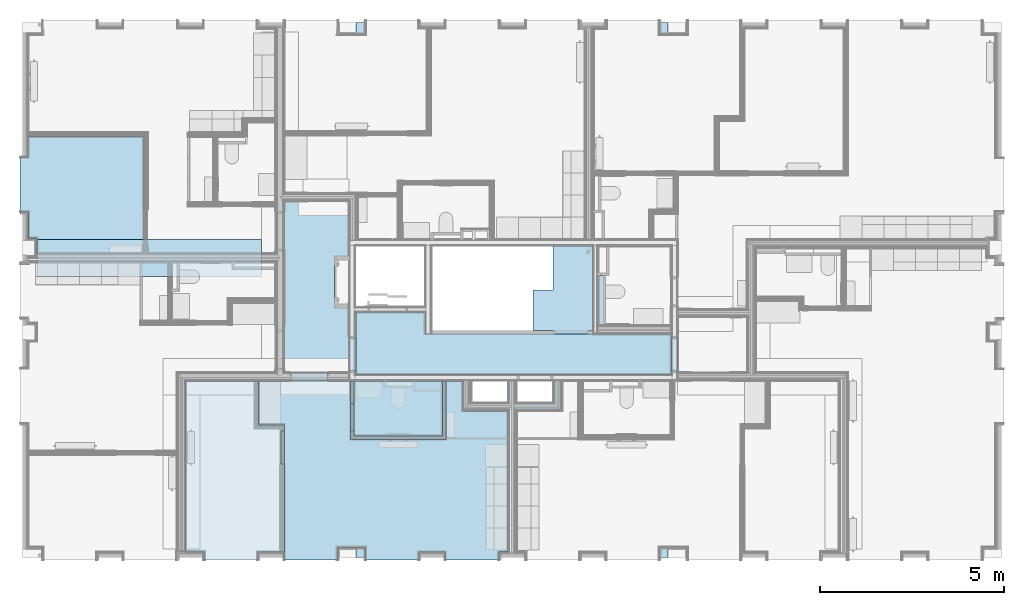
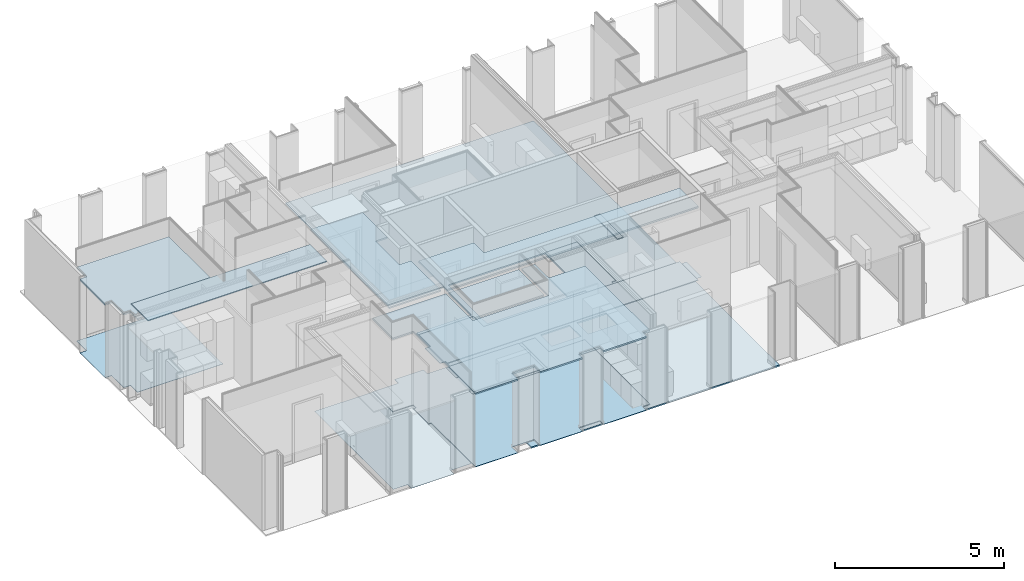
# One storey, part 42 of 64: 20 slabs.
"""IFC2X3 building model written with IfcOpenShell, lengths in metres."""

from ifc_helpers import new_model, entity, si_unit, converted_unit, derived_unit, money_unit, direction, frame, origin_with_axes, place, context, subcontext, project, spatial, faceted_brep, material, type_object, element, save


model = new_model("IFC2X3")

# Units and contexts
model_context = context("Model", 3, precision=1e-05, world=origin_with_axes(), true_north=direction((0.0, 1.0)))
body_context = subcontext(model_context, "Body", "Model", "MODEL_VIEW", scale=1.0)
ifc_project = project(units=[si_unit("LENGTHUNIT", "METRE"), si_unit("AREAUNIT", "SQUARE_METRE"), si_unit("VOLUMEUNIT", "CUBIC_METRE"), si_unit("ABSORBEDDOSEUNIT", "GRAY"), si_unit("AMOUNTOFSUBSTANCEUNIT", "MOLE"), si_unit("DOSEEQUIVALENTUNIT", "SIEVERT"), si_unit("ELECTRICCAPACITANCEUNIT", "FARAD"), si_unit("ELECTRICCHARGEUNIT", "COULOMB"), si_unit("ELECTRICCONDUCTANCEUNIT", "SIEMENS"), si_unit("ELECTRICCURRENTUNIT", "AMPERE"), si_unit("ELECTRICRESISTANCEUNIT", "OHM"), si_unit("ELECTRICVOLTAGEUNIT", "VOLT"), si_unit("ENERGYUNIT", "JOULE"), si_unit("FORCEUNIT", "NEWTON"), si_unit("FREQUENCYUNIT", "HERTZ"), si_unit("ILLUMINANCEUNIT", "LUX"), si_unit("INDUCTANCEUNIT", "HENRY"), si_unit("LUMINOUSFLUXUNIT", "LUMEN"), si_unit("LUMINOUSINTENSITYUNIT", "CANDELA"), si_unit("MAGNETICFLUXDENSITYUNIT", "TESLA"), si_unit("MAGNETICFLUXUNIT", "WEBER"), si_unit("MASSUNIT", "GRAM"), converted_unit("PLANEANGLEUNIT", "degree", entity("IfcReal", 0.0174532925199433), si_unit("PLANEANGLEUNIT", "RADIAN"), dimensions=[0, 0, 0, 0, 0, 0, 0]), si_unit("POWERUNIT", "WATT"), si_unit("PRESSUREUNIT", "PASCAL"), si_unit("RADIOACTIVITYUNIT", "BECQUEREL"), si_unit("SOLIDANGLEUNIT", "STERADIAN"), si_unit("THERMODYNAMICTEMPERATUREUNIT", "KELVIN"), si_unit("TIMEUNIT", "SECOND"), derived_unit("ACCELERATIONUNIT", [(si_unit("LENGTHUNIT", "METRE"), 1), (si_unit("TIMEUNIT", "SECOND"), -2)]), derived_unit("ANGULARVELOCITYUNIT", [(converted_unit("PLANEANGLEUNIT", "degree", entity("IfcReal", 0.0174532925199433), si_unit("PLANEANGLEUNIT", "RADIAN"), dimensions=[0, 0, 0, 0, 0, 0, 0]), 1), (si_unit("TIMEUNIT", "SECOND"), -1)]), derived_unit("CURVATUREUNIT", [(converted_unit("PLANEANGLEUNIT", "degree", entity("IfcReal", 0.0174532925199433), si_unit("PLANEANGLEUNIT", "RADIAN"), dimensions=[0, 0, 0, 0, 0, 0, 0]), 1), (si_unit("LENGTHUNIT", "METRE"), -1)]), derived_unit("DYNAMICVISCOSITYUNIT", [(si_unit("PRESSUREUNIT", "PASCAL"), 1), (si_unit("TIMEUNIT", "SECOND"), 1)]), derived_unit("HEATFLUXDENSITYUNIT", [(si_unit("POWERUNIT", "WATT"), 1), (si_unit("LENGTHUNIT", "METRE"), -2)]), derived_unit("HEATINGVALUEUNIT", [(si_unit("ENERGYUNIT", "JOULE"), 1), (si_unit("MASSUNIT", "GRAM"), -1)]), derived_unit("INTEGERCOUNTRATEUNIT", [(si_unit("TIMEUNIT", "SECOND"), -1)]), derived_unit("IONCONCENTRATIONUNIT", [(si_unit("MASSUNIT", "GRAM"), 1), (si_unit("VOLUMEUNIT", "CUBIC_METRE"), -1)]), derived_unit("ISOTHERMALMOISTURECAPACITYUNIT", [(si_unit("VOLUMEUNIT", "CUBIC_METRE"), 1), (si_unit("MASSUNIT", "GRAM"), -1)]), derived_unit("KINEMATICVISCOSITYUNIT", [(si_unit("AREAUNIT", "SQUARE_METRE"), 1), (si_unit("TIMEUNIT", "SECOND"), -1)]), derived_unit("LINEARFORCEUNIT", [(si_unit("FORCEUNIT", "NEWTON"), 1), (si_unit("LENGTHUNIT", "METRE"), -1)]), derived_unit("LINEARMOMENTUNIT", [(si_unit("FORCEUNIT", "NEWTON"), 1), (si_unit("LENGTHUNIT", "METRE"), -1)]), derived_unit("LINEARSTIFFNESSUNIT", [(si_unit("FORCEUNIT", "NEWTON"), 1), (si_unit("LENGTHUNIT", "METRE"), -1)]), derived_unit("LINEARVELOCITYUNIT", [(si_unit("LENGTHUNIT", "METRE"), 1), (si_unit("TIMEUNIT", "SECOND"), -1)]), derived_unit("LUMINOUSINTENSITYDISTRIBUTIONUNIT", [(si_unit("LUMINOUSINTENSITYUNIT", "CANDELA"), 1), (si_unit("LUMINOUSFLUXUNIT", "LUMEN"), -1)]), derived_unit("MASSDENSITYUNIT", [(si_unit("MASSUNIT", "GRAM"), 1), (si_unit("VOLUMEUNIT", "CUBIC_METRE"), -1)]), derived_unit("MASSFLOWRATEUNIT", [(si_unit("MASSUNIT", "GRAM"), 1), (si_unit("TIMEUNIT", "SECOND"), -1)]), derived_unit("MASSPERLENGTHUNIT", [(si_unit("MASSUNIT", "GRAM"), 1), (si_unit("LENGTHUNIT", "METRE"), -1)]), derived_unit("MODULUSOFELASTICITYUNIT", [(si_unit("FORCEUNIT", "NEWTON"), 1), (si_unit("AREAUNIT", "SQUARE_METRE"), -1)]), derived_unit("MODULUSOFLINEARSUBGRADEREACTIONUNIT", [(si_unit("FORCEUNIT", "NEWTON"), 1), (si_unit("LENGTHUNIT", "METRE"), -2)]), derived_unit("MODULUSOFROTATIONALSUBGRADEREACTIONUNIT", [(si_unit("FORCEUNIT", "NEWTON"), 1), (si_unit("LENGTHUNIT", "METRE"), 1)]), derived_unit("MODULUSOFSUBGRADEREACTIONUNIT", [(si_unit("FORCEUNIT", "NEWTON"), 1), (si_unit("VOLUMEUNIT", "CUBIC_METRE"), -1)]), derived_unit("MOISTUREDIFFUSIVITYUNIT", [(si_unit("VOLUMEUNIT", "CUBIC_METRE"), 1), (si_unit("TIMEUNIT", "SECOND"), -1)]), derived_unit("MOLECULARWEIGHTUNIT", [(si_unit("MASSUNIT", "GRAM"), 1), (si_unit("AMOUNTOFSUBSTANCEUNIT", "MOLE"), -1)]), derived_unit("PLANARFORCEUNIT", [(si_unit("FORCEUNIT", "NEWTON"), 1), (si_unit("LENGTHUNIT", "METRE"), -2)]), derived_unit("ROTATIONALFREQUENCYUNIT", [(si_unit("TIMEUNIT", "SECOND"), -1)]), derived_unit("ROTATIONALMASSUNIT", [(si_unit("MASSUNIT", "GRAM"), 1), (si_unit("LENGTHUNIT", "METRE"), 2)]), derived_unit("ROTATIONALSTIFFNESSUNIT", [(si_unit("FORCEUNIT", "NEWTON"), 1), (si_unit("LENGTHUNIT", "METRE"), 1), (converted_unit("PLANEANGLEUNIT", "degree", entity("IfcReal", 0.0174532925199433), si_unit("PLANEANGLEUNIT", "RADIAN"), dimensions=[0, 0, 0, 0, 0, 0, 0]), -1)]), derived_unit("SECTIONAREAINTEGRALUNIT", [(si_unit("LENGTHUNIT", "METRE"), 5)]), derived_unit("SECTIONMODULUSUNIT", [(si_unit("LENGTHUNIT", "METRE"), 3)]), derived_unit("SHEARMODULUSUNIT", [(si_unit("FORCEUNIT", "NEWTON"), 1), (si_unit("AREAUNIT", "SQUARE_METRE"), -1)]), derived_unit("SOUNDPOWERUNIT", [(si_unit("ENERGYUNIT", "JOULE"), 1), (si_unit("TIMEUNIT", "SECOND"), -1)]), derived_unit("SPECIFICHEATCAPACITYUNIT", [(si_unit("FORCEUNIT", "NEWTON"), 1), (si_unit("MASSUNIT", "GRAM"), -1), (si_unit("THERMODYNAMICTEMPERATUREUNIT", "KELVIN"), -1)]), derived_unit("TEMPERATUREGRADIENTUNIT", [(si_unit("THERMODYNAMICTEMPERATUREUNIT", "KELVIN"), 1), (si_unit("LENGTHUNIT", "METRE"), -1)]), derived_unit("THERMALADMITTANCEUNIT", [(si_unit("POWERUNIT", "WATT"), 1), (si_unit("AREAUNIT", "SQUARE_METRE"), -1), (si_unit("THERMODYNAMICTEMPERATUREUNIT", "KELVIN"), -1)]), derived_unit("THERMALCONDUCTANCEUNIT", [(si_unit("POWERUNIT", "WATT"), 1), (si_unit("LENGTHUNIT", "METRE"), -1), (si_unit("THERMODYNAMICTEMPERATUREUNIT", "KELVIN"), -1)]), derived_unit("THERMALEXPANSIONCOEFFICIENTUNIT", [(si_unit("THERMODYNAMICTEMPERATUREUNIT", "KELVIN"), -1)]), derived_unit("THERMALRESISTANCEUNIT", [(si_unit("AREAUNIT", "SQUARE_METRE"), 1), (si_unit("POWERUNIT", "WATT"), -1)]), derived_unit("THERMALTRANSMITTANCEUNIT", [(si_unit("POWERUNIT", "WATT"), 1), (si_unit("AREAUNIT", "SQUARE_METRE"), -1), (si_unit("THERMODYNAMICTEMPERATUREUNIT", "KELVIN"), -1)]), derived_unit("TORQUEUNIT", [(si_unit("FORCEUNIT", "NEWTON"), 1), (si_unit("LENGTHUNIT", "METRE"), 1)]), derived_unit("VAPORPERMEABILITYUNIT", [(si_unit("MASSUNIT", "GRAM"), 1), (si_unit("TIMEUNIT", "SECOND"), -1)]), derived_unit("VOLUMETRICFLOWRATEUNIT", [(si_unit("VOLUMEUNIT", "CUBIC_METRE"), 1), (si_unit("TIMEUNIT", "SECOND"), -1)]), derived_unit("WARPINGCONSTANTUNIT", [(si_unit("LENGTHUNIT", "METRE"), 6)]), derived_unit("WARPINGMOMENTUNIT", [(si_unit("FORCEUNIT", "NEWTON"), 1), (si_unit("LENGTHUNIT", "METRE"), 2)]), money_unit("GBP")], contexts=[model_context])

# Site, building, storey
site_placement = place(None, origin_with_axes())
site = spatial("IfcSite", under=ifc_project, at=site_placement, Name="Site", CompositionType="ELEMENT")
building_placement = place(site_placement, origin_with_axes())
building = spatial("IfcBuilding", under=site, at=building_placement, Name="Building01", CompositionType="ELEMENT")
storey_placement = place(building_placement, frame((0.0, 0.0, 8.64), z_axis=(0.0, 0.0, 1.0), x_axis=(1.0, 0.0, 0.0)))
storey = spatial("IfcBuildingStorey", under=building, at=storey_placement, Name="2F", CompositionType="ELEMENT", Elevation=8.64)

# Slabs
ifc_material_1 = material(Name="A_BSUK_CeilingSoffitFinishes_Suspended")
slab_type_1 = type_object("IfcSlabType", Name="A-FloorsSlabs A_BSUK_Slabs", PredefinedType="FLOOR")
placement = place(storey_placement, frame((0.0, 0.0, -8.64), z_axis=(0.0, 0.0, 1.0), x_axis=(1.0, 0.0, 0.0)))
element("IfcSlab", 1, at=placement, inside=storey, type_object=slab_type_1, material=ifc_material_1, Name="A-FloorsSlabs A_BSUK_Slabs", ObjectType="CompoundSlabLeaf", context=body_context, shape_type="Brep", body=[
    faceted_brep([(9.25, 5.15, 11.255), (9.25, 5.15, 11.27), (9.25, 6.85, 11.27), (9.25, 6.85, 11.255), (17.83, 5.15, 11.255), (17.83, 5.15, 11.27), (17.83, 6.25, 11.255), (17.83, 6.25, 11.27), (15.679803, 6.25, 11.255), (15.679803, 6.25, 11.27), (11.13, 6.25, 11.255), (11.13, 6.25, 11.27), (11.13, 6.85, 11.255), (11.13, 6.85, 11.27)], [[[0, 1, 2, 3]], [[4, 5, 1, 0]], [[6, 7, 5, 4]], [[8, 9, 7, 6]], [[10, 11, 9, 8]], [[12, 13, 11, 10]], [[3, 2, 13, 12]], [[1, 5, 7, 9, 11, 13, 2]], [[3, 12, 10, 8, 6, 4, 0]]]),
])
ifc_material_2 = material(Name="A_BSUK_InternalFinishes_FloorScreed")
element("IfcSlab", 2, at=placement, inside=storey, type_object=slab_type_1, material=ifc_material_2, Name="A-FloorsSlabs A_BSUK_Slabs", ObjectType="CompoundSlabLeaf", context=body_context, shape_type="Brep", body=[
    faceted_brep([(11.13, 8.65, 8.64), (11.13, 6.98, 8.64), (9.25, 6.98, 8.64), (9.25, 0.17, 8.64), (17.73, 0.17, 8.64), (17.73, 14.73, 8.64), (9.25, 14.73, 8.64), (9.25, 8.65, 8.64), (13.375, 5.05385, 8.64), (13.375, 4.389428, 8.64), (12.375, 4.389428, 8.64), (12.375, 5.05385, 8.64), (14.625, 5.05385, 8.64), (14.625, 4.389428, 8.64), (13.625, 4.389428, 8.64), (13.625, 5.05385, 8.64), (14.059316, 6.35, 8.64), (11.3, 6.35, 8.64), (11.3, 8.65, 8.64), (14.609584, 8.65, 8.64), (14.609584, 7.454282, 8.64), (14.059316, 7.454282, 8.64), (11.13, 8.65, 8.59), (9.25, 8.65, 8.59), (9.25, 14.73, 8.59), (17.73, 14.73, 8.59), (17.73, 0.17, 8.59), (9.25, 0.17, 8.59), (9.25, 6.98, 8.59), (11.13, 6.98, 8.59), (13.375, 5.05385, 8.59), (12.375, 5.05385, 8.59), (12.375, 4.389428, 8.59), (13.375, 4.389428, 8.59), (14.059316, 6.35, 8.59), (14.059316, 7.454282, 8.59), (14.609584, 7.454282, 8.59), (14.609584, 8.65, 8.59), (11.3, 8.65, 8.59), (11.3, 6.35, 8.59), (14.625, 5.05385, 8.59), (13.625, 5.05385, 8.59), (13.625, 4.389428, 8.59), (14.625, 4.389428, 8.59)], [[[0, 1, 2, 3, 4, 5, 6, 7], [8, 9, 10, 11], [12, 13, 14, 15], [16, 17, 18, 19, 20, 21]], [[22, 23, 24, 25, 26, 27, 28, 29], [30, 31, 32, 33], [34, 35, 36, 37, 38, 39], [40, 41, 42, 43]], [[23, 7, 6, 24]], [[2, 28, 27, 3]], [[35, 21, 20, 36]], [[24, 6, 5, 25]], [[26, 4, 3, 27]], [[25, 5, 4, 26]], [[15, 41, 40, 12]], [[12, 40, 43, 13]], [[13, 43, 42, 14]], [[14, 42, 41, 15]], [[11, 31, 30, 8]], [[8, 30, 33, 9]], [[9, 33, 32, 10]], [[10, 32, 31, 11]], [[18, 38, 37, 19]], [[19, 37, 36, 20]], [[17, 39, 38, 18]], [[16, 34, 39, 17]], [[21, 35, 34, 16]], [[0, 22, 29, 1]], [[7, 23, 22, 0]], [[1, 29, 28, 2]]]),
])
ifc_material_3 = material(Name="A_BSUK_Ceramic_WallTiles")
element("IfcSlab", 3, at=placement, inside=storey, type_object=slab_type_1, material=ifc_material_3, Name="A-FloorsSlabs A_BSUK_Slabs", ObjectType="CompoundSlabLeaf", context=body_context, shape_type="Brep", body=[
    faceted_brep([(16.03, 6.475, 10.015), (16.03, 6.475, 10.04), (15.83, 6.475, 10.04), (15.83, 6.475, 10.015), (16.03, 7.849998, 10.015), (16.03, 7.849998, 10.04), (15.830003, 7.85, 10.015), (15.830003, 7.85, 10.04)], [[[0, 1, 2, 3]], [[4, 5, 1, 0]], [[6, 7, 5, 4]], [[3, 2, 7, 6]], [[1, 5, 7, 2]], [[3, 6, 4, 0]]]),
])
ifc_material_4 = material(Name="A_BSUK_ExpandedPolystyreneBoards")
element("IfcSlab", 4, at=placement, inside=storey, type_object=slab_type_1, material=ifc_material_4, Name="A-FloorsSlabs A_BSUK_Slabs", ObjectType="CompoundSlabLeaf", context=body_context, shape_type="Brep", body=[
    faceted_brep([(9.25, 6.15, 8.64), (9.25, 6.15, 8.643), (9.25, 6.85, 8.643), (9.25, 6.85, 8.64), (9.06, 6.15, 8.64), (9.06, 6.15, 8.643), (9.06, 5.25, 8.64), (9.06, 5.25, 8.643), (9.25, 5.25, 8.64), (9.25, 5.25, 8.643), (9.25, 5.15, 8.64), (9.25, 5.15, 8.643), (17.83, 5.15, 8.64), (17.83, 5.15, 8.643), (17.83, 5.25, 8.64), (17.83, 5.25, 8.643), (18.0, 5.25, 8.64), (18.0, 5.25, 8.643), (18.0, 6.15, 8.64), (18.0, 6.15, 8.643), (17.83, 6.15, 8.64), (17.83, 6.15, 8.643), (17.83, 6.25, 8.64), (17.83, 6.25, 8.643), (15.558, 6.25, 8.64), (15.558, 6.25, 8.643), (15.558, 6.35, 8.64), (15.558, 6.35, 8.643), (15.6, 6.35, 8.64), (15.6, 6.35, 8.643), (15.7, 6.35, 8.64), (15.7, 6.35, 8.643), (15.7, 8.65, 8.64), (15.7, 8.65, 8.643), (14.609584, 8.65, 8.64), (14.609584, 8.65, 8.643), (14.609584, 7.454282, 8.64), (14.609584, 7.454282, 8.643), (14.059316, 7.454282, 8.64), (14.059316, 7.454282, 8.643), (14.059316, 6.35, 8.64), (14.059316, 6.35, 8.643), (14.658, 6.35, 8.64), (14.658, 6.35, 8.643), (14.658, 6.25, 8.64), (14.658, 6.25, 8.643), (11.13, 6.25, 8.64), (11.13, 6.25, 8.643), (11.13, 6.85, 8.64), (11.13, 6.85, 8.643)], [[[0, 1, 2, 3]], [[4, 5, 1, 0]], [[6, 7, 5, 4]], [[8, 9, 7, 6]], [[10, 11, 9, 8]], [[12, 13, 11, 10]], [[14, 15, 13, 12]], [[16, 17, 15, 14]], [[18, 19, 17, 16]], [[20, 21, 19, 18]], [[22, 23, 21, 20]], [[24, 25, 23, 22]], [[26, 27, 25, 24]], [[28, 29, 27, 26]], [[30, 31, 29, 28]], [[32, 33, 31, 30]], [[34, 35, 33, 32]], [[36, 37, 35, 34]], [[38, 39, 37, 36]], [[40, 41, 39, 38]], [[42, 43, 41, 40]], [[44, 45, 43, 42]], [[46, 47, 45, 44]], [[48, 49, 47, 46]], [[3, 2, 49, 48]], [[1, 5, 7, 9, 11, 13, 15, 17, 19, 21, 23, 25, 27, 29, 31, 33, 35, 37, 39, 41, 43, 45, 47, 49, 2]], [[3, 48, 46, 44, 42, 40, 38, 36, 34, 32, 30, 28, 26, 24, 22, 20, 18, 16, 14, 12, 10, 8, 6, 4, 0]]]),
])
element("IfcSlab", 5, at=placement, inside=storey, type_object=slab_type_1, material=ifc_material_4, Name="A-FloorsSlabs A_BSUK_Slabs", ObjectType="CompoundSlabLeaf", context=body_context, shape_type="Brep", body=[
    faceted_brep([(12.15, 4.98, 8.64), (12.15, 4.98, 8.643), (12.15, 4.164428, 8.643), (12.15, 4.164428, 8.64), (9.0, 4.98, 8.64), (9.0, 4.98, 8.643), (8.4725, 4.98, 8.64), (8.4725, 4.98, 8.643), (8.4725, 5.205, 8.64), (8.4725, 5.205, 8.643), (7.4725, 5.205, 8.64), (7.4725, 5.205, 8.643), (7.4725, 4.98, 8.64), (7.4725, 4.98, 8.643), (4.61, 4.98, 8.64), (4.61, 4.98, 8.643), (4.61, 0.318, 8.64), (4.61, 0.318, 8.643), (5.105, 0.318, 8.64), (5.105, 0.318, 8.643), (5.105, 0.1, 8.64), (5.105, 0.1, 8.643), (6.575, 0.1, 8.64), (6.575, 0.1, 8.643), (6.575, 0.318, 8.64), (6.575, 0.318, 8.643), (7.295, 0.318, 8.64), (7.295, 0.318, 8.643), (7.295, 0.1, 8.64), (7.295, 0.1, 8.643), (8.742, 0.1, 8.64), (8.742, 0.1, 8.643), (8.742, 0.448, 8.64), (8.742, 0.448, 8.643), (9.508, 0.448, 8.64), (9.508, 0.448, 8.643), (9.508, 0.1, 8.64), (9.508, 0.1, 8.643), (10.955, 0.1, 8.64), (10.955, 0.1, 8.643), (10.955, 0.318, 8.64), (10.955, 0.318, 8.643), (11.675, 0.318, 8.64), (11.675, 0.318, 8.643), (11.675, 0.1, 8.64), (11.675, 0.1, 8.643), (13.145, 0.1, 8.64), (13.145, 0.1, 8.643), (13.145, 0.318, 8.64), (13.145, 0.318, 8.643), (13.3875, 0.318, 8.64), (13.3875, 0.318, 8.643), (13.3875, 4.164428, 8.64), (13.3875, 4.164428, 8.643)], [[[0, 1, 2, 3]], [[4, 5, 1, 0]], [[6, 7, 5, 4]], [[8, 9, 7, 6]], [[10, 11, 9, 8]], [[12, 13, 11, 10]], [[14, 15, 13, 12]], [[16, 17, 15, 14]], [[18, 19, 17, 16]], [[20, 21, 19, 18]], [[22, 23, 21, 20]], [[24, 25, 23, 22]], [[26, 27, 25, 24]], [[28, 29, 27, 26]], [[30, 31, 29, 28]], [[32, 33, 31, 30]], [[34, 35, 33, 32]], [[36, 37, 35, 34]], [[38, 39, 37, 36]], [[40, 41, 39, 38]], [[42, 43, 41, 40]], [[44, 45, 43, 42]], [[46, 47, 45, 44]], [[48, 49, 47, 46]], [[50, 51, 49, 48]], [[52, 53, 51, 50]], [[3, 2, 53, 52]], [[1, 5, 7, 9, 11, 13, 15, 17, 19, 21, 23, 25, 27, 29, 31, 33, 35, 37, 39, 41, 43, 45, 47, 49, 51, 53, 2]], [[3, 52, 50, 48, 46, 44, 42, 40, 38, 36, 34, 32, 30, 28, 26, 24, 22, 20, 18, 16, 14, 12, 10, 8, 6, 4, 0]]]),
])
ifc_material_5 = material(Name="A_BSUK_Carpet-Pile")
element("IfcSlab", 6, at=placement, inside=storey, type_object=slab_type_1, material=ifc_material_5, Name="A-FloorsSlabs A_BSUK_Slabs", ObjectType="CompoundSlabLeaf", context=body_context, shape_type="Brep", body=[
    faceted_brep([(0.318, 11.63067, 8.643), (0.318, 11.63067, 8.655), (3.474669, 11.63067, 8.655), (3.474669, 11.63067, 8.643), (0.318, 11.055, 8.643), (0.318, 11.055, 8.655), (0.1, 11.055, 8.643), (0.1, 11.055, 8.655), (0.1, 9.56218, 8.643), (0.1, 9.56218, 8.655), (0.318, 9.56218, 8.643), (0.318, 9.56218, 8.655), (0.318, 8.848, 8.643), (0.318, 8.848, 8.655), (0.548, 8.848, 8.643), (0.548, 8.848, 8.655), (0.548, 8.43567, 8.643), (0.548, 8.43567, 8.655), (3.474669, 8.43567, 8.643), (3.474669, 8.43567, 8.655)], [[[0, 1, 2, 3]], [[4, 5, 1, 0]], [[6, 7, 5, 4]], [[8, 9, 7, 6]], [[10, 11, 9, 8]], [[12, 13, 11, 10]], [[14, 15, 13, 12]], [[16, 17, 15, 14]], [[18, 19, 17, 16]], [[3, 2, 19, 18]], [[1, 5, 7, 9, 11, 13, 15, 17, 19, 2]], [[3, 18, 16, 14, 12, 10, 8, 6, 4, 0]]]),
])
ifc_material_6 = material(Name="A_BSUK_Parquet_Floor")
element("IfcSlab", 7, at=placement, inside=storey, type_object=slab_type_1, material=ifc_material_6, Name="A-FloorsSlabs A_BSUK_Slabs", ObjectType="CompoundSlabLeaf", context=body_context, shape_type="Brep", body=[
    faceted_brep([(8.4725, 5.205, 8.643), (8.4725, 5.205, 8.655), (8.4725, 4.98, 8.655), (8.4725, 4.98, 8.643), (7.4725, 5.205, 8.643), (7.4725, 5.205, 8.655), (7.4725, 4.98, 8.643), (7.4725, 4.98, 8.655), (6.595, 4.98, 8.643), (6.595, 4.98, 8.655), (6.595, 3.78, 8.643), (6.595, 3.78, 8.655), (7.295, 3.78, 8.643), (7.295, 3.78, 8.655), (7.295, 3.616, 8.643), (7.295, 3.616, 8.655), (7.2, 3.616, 8.643), (7.2, 3.616, 8.655), (7.2, 2.716, 8.643), (7.2, 2.716, 8.655), (7.295, 2.716, 8.643), (7.295, 2.716, 8.655), (7.295, 0.1, 8.643), (7.295, 0.1, 8.655), (8.742, 0.1, 8.643), (8.742, 0.1, 8.655), (8.742, 0.448, 8.643), (8.742, 0.448, 8.655), (9.508, 0.448, 8.643), (9.508, 0.448, 8.655), (9.508, 0.1, 8.643), (9.508, 0.1, 8.655), (10.955, 0.1, 8.643), (10.955, 0.1, 8.655), (10.955, 0.318, 8.643), (10.955, 0.318, 8.655), (11.675, 0.318, 8.643), (11.675, 0.318, 8.655), (11.675, 0.1, 8.643), (11.675, 0.1, 8.655), (13.145, 0.1, 8.643), (13.145, 0.1, 8.655), (13.145, 0.318, 8.643), (13.145, 0.318, 8.655), (13.3875, 0.318, 8.643), (13.3875, 0.318, 8.655), (13.3875, 4.164428, 8.643), (13.3875, 4.164428, 8.655), (12.15, 4.164428, 8.643), (12.15, 4.164428, 8.655), (12.15, 4.98, 8.643), (12.15, 4.98, 8.655), (11.687536, 4.98, 8.643), (11.687536, 4.98, 8.655), (11.687536, 3.385, 8.643), (11.687536, 3.385, 8.655), (9.097536, 3.385, 8.643), (9.097536, 3.385, 8.655), (9.097536, 3.613781, 8.643), (9.097536, 3.613781, 8.655), (9.192536, 3.613781, 8.643), (9.192536, 3.613781, 8.655), (9.192536, 4.363781, 8.643), (9.192536, 4.363781, 8.655), (9.097536, 4.363781, 8.643), (9.097536, 4.363781, 8.655), (9.097536, 4.98, 8.643), (9.097536, 4.98, 8.655)], [[[0, 1, 2, 3]], [[4, 5, 1, 0]], [[6, 7, 5, 4]], [[8, 9, 7, 6]], [[10, 11, 9, 8]], [[12, 13, 11, 10]], [[14, 15, 13, 12]], [[16, 17, 15, 14]], [[18, 19, 17, 16]], [[20, 21, 19, 18]], [[22, 23, 21, 20]], [[24, 25, 23, 22]], [[26, 27, 25, 24]], [[28, 29, 27, 26]], [[30, 31, 29, 28]], [[32, 33, 31, 30]], [[34, 35, 33, 32]], [[36, 37, 35, 34]], [[38, 39, 37, 36]], [[40, 41, 39, 38]], [[42, 43, 41, 40]], [[44, 45, 43, 42]], [[46, 47, 45, 44]], [[48, 49, 47, 46]], [[50, 51, 49, 48]], [[52, 53, 51, 50]], [[54, 55, 53, 52]], [[56, 57, 55, 54]], [[58, 59, 57, 56]], [[60, 61, 59, 58]], [[62, 63, 61, 60]], [[64, 65, 63, 62]], [[66, 67, 65, 64]], [[3, 2, 67, 66]], [[1, 5, 7, 9, 11, 13, 15, 17, 19, 21, 23, 25, 27, 29, 31, 33, 35, 37, 39, 41, 43, 45, 47, 49, 51, 53, 55, 57, 59, 61, 63, 65, 67, 2]], [[3, 66, 64, 62, 60, 58, 56, 54, 52, 50, 48, 46, 44, 42, 40, 38, 36, 34, 32, 30, 28, 26, 24, 22, 20, 18, 16, 14, 12, 10, 8, 6, 4, 0]]]),
])
ifc_material_7 = material(Name="A_BSUK_Ceramic_FloorTiles")
element("IfcSlab", 8, at=placement, inside=storey, type_object=slab_type_1, material=ifc_material_7, Name="A-FloorsSlabs A_BSUK_Slabs", ObjectType="CompoundSlabLeaf", context=body_context, shape_type="Brep", body=[
    faceted_brep([(9.192536, 4.98, 8.643), (9.192536, 4.98, 8.655), (11.592536, 4.98, 8.655), (11.592536, 4.98, 8.643), (9.192536, 3.48, 8.643), (9.192536, 3.48, 8.655), (11.592536, 3.48, 8.643), (11.592536, 3.48, 8.655), (11.592536, 4.259428, 8.643), (11.592536, 4.259428, 8.655)], [[[0, 1, 2, 3]], [[4, 5, 1, 0]], [[6, 7, 5, 4]], [[8, 9, 7, 6]], [[3, 2, 9, 8]], [[1, 5, 7, 9, 2]], [[3, 8, 6, 4, 0]]]),
])
element("IfcSlab", 9, at=placement, inside=storey, type_object=slab_type_1, material=ifc_material_5, Name="A-FloorsSlabs A_BSUK_Slabs", ObjectType="CompoundSlabLeaf", context=body_context, shape_type="Brep", body=[
    faceted_brep([(9.06, 5.25, 8.643), (9.06, 5.25, 8.655), (9.06, 6.15, 8.655), (9.06, 6.15, 8.643), (9.25, 5.25, 8.643), (9.25, 5.25, 8.655), (9.25, 5.15, 8.643), (9.25, 5.15, 8.655), (17.83, 5.15, 8.643), (17.83, 5.15, 8.655), (17.83, 6.25, 8.643), (17.83, 6.25, 8.655), (14.658, 6.25, 8.643), (14.658, 6.25, 8.655), (11.13, 6.25, 8.643), (11.13, 6.25, 8.655), (11.13, 6.85, 8.643), (11.13, 6.85, 8.655), (9.25, 6.85, 8.643), (9.25, 6.85, 8.655), (9.25, 6.15, 8.643), (9.25, 6.15, 8.655)], [[[0, 1, 2, 3]], [[4, 5, 1, 0]], [[6, 7, 5, 4]], [[8, 9, 7, 6]], [[10, 11, 9, 8]], [[12, 13, 11, 10]], [[14, 15, 13, 12]], [[16, 17, 15, 14]], [[18, 19, 17, 16]], [[20, 21, 19, 18]], [[3, 2, 21, 20]], [[1, 5, 7, 9, 11, 13, 15, 17, 19, 21, 2]], [[3, 20, 18, 16, 14, 12, 10, 8, 6, 4, 0]]]),
])
element("IfcSlab", 10, at=placement, inside=storey, type_object=slab_type_1, material=ifc_material_5, Name="A-FloorsSlabs A_BSUK_Slabs", ObjectType="CompoundSlabLeaf", context=body_context, shape_type="Brep", body=[
    faceted_brep([(14.609584, 7.454282, 8.643), (14.609584, 7.454282, 8.655), (14.609584, 8.65, 8.655), (14.609584, 8.65, 8.643), (14.059316, 7.454282, 8.643), (14.059316, 7.454282, 8.655), (14.059316, 6.35, 8.643), (14.059316, 6.35, 8.655), (14.658, 6.35, 8.643), (14.658, 6.35, 8.655), (14.658, 6.25, 8.643), (14.658, 6.25, 8.655), (15.558, 6.25, 8.643), (15.558, 6.25, 8.655), (15.558, 6.35, 8.643), (15.558, 6.35, 8.655), (15.7, 6.35, 8.643), (15.7, 6.35, 8.655), (15.7, 8.65, 8.643), (15.7, 8.65, 8.655)], [[[0, 1, 2, 3]], [[4, 5, 1, 0]], [[6, 7, 5, 4]], [[8, 9, 7, 6]], [[10, 11, 9, 8]], [[12, 13, 11, 10]], [[14, 15, 13, 12]], [[16, 17, 15, 14]], [[18, 19, 17, 16]], [[3, 2, 19, 18]], [[1, 5, 7, 9, 11, 13, 15, 17, 19, 2]], [[3, 18, 16, 14, 12, 10, 8, 6, 4, 0]]]),
])
element("IfcSlab", 11, at=placement, inside=storey, type_object=slab_type_1, material=ifc_material_1, Name="A-FloorsSlabs A_BSUK_Slabs", ObjectType="CompoundSlabLeaf", context=body_context, shape_type="Brep", body=[
    faceted_brep([(8.6725, 4.98, 11.255), (8.6725, 4.98, 11.27), (9.097536, 4.98, 11.27), (9.097536, 4.98, 11.255), (7.6725, 4.98, 11.255), (7.6725, 4.98, 11.27), (6.595, 4.98, 11.255), (6.595, 4.98, 11.27), (6.595, 3.78, 11.255), (6.595, 3.78, 11.27), (7.295, 3.78, 11.255), (7.295, 3.78, 11.27), (7.295, 3.151781, 11.255), (7.295, 3.151781, 11.27), (7.295, 0.1, 11.255), (7.295, 0.1, 11.27), (8.742, 0.1, 11.255), (8.742, 0.1, 11.27), (8.742, 0.448, 11.255), (8.742, 0.448, 11.27), (9.508, 0.448, 11.255), (9.508, 0.448, 11.27), (9.508, 0.1, 11.255), (9.508, 0.1, 11.27), (10.955, 0.1, 11.255), (10.955, 0.1, 11.27), (10.955, 0.318, 11.255), (10.955, 0.318, 11.27), (11.675, 0.318, 11.255), (11.675, 0.318, 11.27), (11.675, 0.1, 11.255), (11.675, 0.1, 11.27), (13.13, 0.1, 11.255), (13.13, 0.1, 11.27), (13.13, 0.333, 11.255), (13.13, 0.333, 11.27), (13.3875, 0.333, 11.255), (13.3875, 0.333, 11.27), (13.3875, 4.164428, 11.255), (13.3875, 4.164428, 11.27), (12.15, 4.164428, 11.255), (12.15, 4.164428, 11.27), (12.15, 4.98, 11.255), (12.15, 4.98, 11.27), (11.687536, 4.98, 11.255), (11.687536, 4.98, 11.27), (11.687536, 3.385, 11.255), (11.687536, 3.385, 11.27), (9.097536, 3.385, 11.255), (9.097536, 3.385, 11.27)], [[[0, 1, 2, 3]], [[4, 5, 1, 0]], [[6, 7, 5, 4]], [[8, 9, 7, 6]], [[10, 11, 9, 8]], [[12, 13, 11, 10]], [[14, 15, 13, 12]], [[16, 17, 15, 14]], [[18, 19, 17, 16]], [[20, 21, 19, 18]], [[22, 23, 21, 20]], [[24, 25, 23, 22]], [[26, 27, 25, 24]], [[28, 29, 27, 26]], [[30, 31, 29, 28]], [[32, 33, 31, 30]], [[34, 35, 33, 32]], [[36, 37, 35, 34]], [[38, 39, 37, 36]], [[40, 41, 39, 38]], [[42, 43, 41, 40]], [[44, 45, 43, 42]], [[46, 47, 45, 44]], [[48, 49, 47, 46]], [[3, 2, 49, 48]], [[1, 5, 7, 9, 11, 13, 15, 17, 19, 21, 23, 25, 27, 29, 31, 33, 35, 37, 39, 41, 43, 45, 47, 49, 2]], [[3, 48, 46, 44, 42, 40, 38, 36, 34, 32, 30, 28, 26, 24, 22, 20, 18, 16, 14, 12, 10, 8, 6, 4, 0]]]),
])
element("IfcSlab", 12, at=placement, inside=storey, type_object=slab_type_1, material=ifc_material_1, Name="A-FloorsSlabs A_BSUK_Slabs", ObjectType="CompoundSlabLeaf", context=body_context, shape_type="Brep", body=[
    faceted_brep([(9.192536, 4.98, 11.255), (9.192536, 4.98, 11.27), (11.592536, 4.98, 11.27), (11.592536, 4.98, 11.255), (9.192536, 3.48, 11.255), (9.192536, 3.48, 11.27), (11.592536, 3.48, 11.255), (11.592536, 3.48, 11.27), (11.592536, 4.259428, 11.255), (11.592536, 4.259428, 11.27)], [[[0, 1, 2, 3]], [[4, 5, 1, 0]], [[6, 7, 5, 4]], [[8, 9, 7, 6]], [[3, 2, 9, 8]], [[1, 5, 7, 9, 2]], [[3, 8, 6, 4, 0]]]),
])
element("IfcSlab", 13, at=placement, inside=storey, type_object=slab_type_1, material=ifc_material_1, Name="A-FloorsSlabs A_BSUK_Slabs", ObjectType="CompoundSlabLeaf", context=body_context, shape_type="Brep", body=[
    faceted_brep([(0.318, 11.63067, 11.255), (0.318, 11.63067, 11.27), (3.474669, 11.63067, 11.27), (3.474669, 11.63067, 11.255), (0.318, 11.055, 11.255), (0.318, 11.055, 11.27), (0.1, 11.055, 11.255), (0.1, 11.055, 11.27), (0.1, 9.57718, 11.255), (0.1, 9.57718, 11.27), (0.333, 9.57718, 11.255), (0.333, 9.57718, 11.27), (0.333, 8.863, 11.255), (0.333, 8.863, 11.27), (0.563, 8.863, 11.255), (0.563, 8.863, 11.27), (0.563, 8.43567, 11.255), (0.563, 8.43567, 11.27), (3.474669, 8.43567, 11.255), (3.474669, 8.43567, 11.27)], [[[0, 1, 2, 3]], [[4, 5, 1, 0]], [[6, 7, 5, 4]], [[8, 9, 7, 6]], [[10, 11, 9, 8]], [[12, 13, 11, 10]], [[14, 15, 13, 12]], [[16, 17, 15, 14]], [[18, 19, 17, 16]], [[3, 2, 19, 18]], [[1, 5, 7, 9, 11, 13, 15, 17, 19, 2]], [[3, 18, 16, 14, 12, 10, 8, 6, 4, 0]]]),
])
element("IfcSlab", 14, at=placement, inside=storey, type_object=slab_type_1, material=ifc_material_1, Name="A-FloorsSlabs A_BSUK_Slabs", ObjectType="CompoundSlabLeaf", context=body_context, shape_type="Brep", body=[
    faceted_brep([(0.563, 7.82317, 11.605), (0.563, 7.82317, 11.62), (0.563, 8.82317, 11.62), (0.563, 8.82317, 11.605), (6.677169, 7.82317, 11.605), (6.677169, 7.82317, 11.62), (6.677169, 8.82317, 11.605), (6.677169, 8.82317, 11.62)], [[[0, 1, 2, 3]], [[4, 5, 1, 0]], [[6, 7, 5, 4]], [[3, 2, 7, 6]], [[1, 5, 7, 2]], [[3, 6, 4, 0]]]),
])
element("IfcSlab", 15, at=placement, inside=storey, type_object=slab_type_1, material=ifc_material_1, Name="A-FloorsSlabs A_BSUK_Slabs", ObjectType="CompoundSlabLeaf", context=body_context, shape_type="Brep", body=[
    faceted_brep([(0.563, 7.82317, 11.59), (0.563, 7.82317, 11.605), (0.563, 8.82317, 11.605), (0.563, 8.82317, 11.59), (6.677169, 7.82317, 11.59), (6.677169, 7.82317, 11.605), (6.677169, 8.82317, 11.59), (6.677169, 8.82317, 11.605)], [[[0, 1, 2, 3]], [[4, 5, 1, 0]], [[6, 7, 5, 4]], [[3, 2, 7, 6]], [[1, 5, 7, 2]], [[3, 6, 4, 0]]]),
])
slab_type_2 = type_object("IfcSlabType", Name="A-FloorsSlabs A_BSUK_ExpandedPolystyreneBoards", PredefinedType="FLOOR")
element("IfcSlab", 16, at=placement, inside=storey, type_object=slab_type_2, material=ifc_material_4, Name="A-FloorsSlabs A_BSUK_ExpandedPolystyreneBoards", ObjectType="CompoundSlabLeaf", context=body_context, shape_type="Brep", body=[
    faceted_brep([(8.6725, 4.98, 11.27), (8.6725, 4.98, 11.32), (9.097536, 4.98, 11.32), (9.097536, 4.98, 11.27), (7.6725, 4.98, 11.27), (7.6725, 4.98, 11.32), (6.595, 4.98, 11.27), (6.595, 4.98, 11.32), (6.595, 3.78, 11.27), (6.595, 3.78, 11.32), (7.295, 3.78, 11.27), (7.295, 3.78, 11.32), (7.295, 3.151781, 11.27), (7.295, 3.151781, 11.32), (7.295, 0.1, 11.27), (7.295, 0.1, 11.32), (8.742, 0.1, 11.27), (8.742, 0.1, 11.32), (8.742, 0.448, 11.27), (8.742, 0.448, 11.32), (9.508, 0.448, 11.27), (9.508, 0.448, 11.32), (9.508, 0.1, 11.27), (9.508, 0.1, 11.32), (10.955, 0.1, 11.27), (10.955, 0.1, 11.32), (10.955, 0.318, 11.27), (10.955, 0.318, 11.32), (11.675, 0.318, 11.27), (11.675, 0.318, 11.32), (11.675, 0.1, 11.27), (11.675, 0.1, 11.32), (13.145, 0.1, 11.27), (13.145, 0.1, 11.32), (13.145, 0.318, 11.27), (13.145, 0.318, 11.32), (13.3875, 0.318, 11.27), (13.3875, 0.318, 11.32), (13.3875, 4.164428, 11.27), (13.3875, 4.164428, 11.32), (12.15, 4.164428, 11.27), (12.15, 4.164428, 11.32), (12.15, 4.98, 11.27), (12.15, 4.98, 11.32), (11.687536, 4.98, 11.27), (11.687536, 4.98, 11.32), (11.687536, 3.385, 11.27), (11.687536, 3.385, 11.32), (9.097536, 3.385, 11.27), (9.097536, 3.385, 11.32)], [[[0, 1, 2, 3]], [[4, 5, 1, 0]], [[6, 7, 5, 4]], [[8, 9, 7, 6]], [[10, 11, 9, 8]], [[12, 13, 11, 10]], [[14, 15, 13, 12]], [[16, 17, 15, 14]], [[18, 19, 17, 16]], [[20, 21, 19, 18]], [[22, 23, 21, 20]], [[24, 25, 23, 22]], [[26, 27, 25, 24]], [[28, 29, 27, 26]], [[30, 31, 29, 28]], [[32, 33, 31, 30]], [[34, 35, 33, 32]], [[36, 37, 35, 34]], [[38, 39, 37, 36]], [[40, 41, 39, 38]], [[42, 43, 41, 40]], [[44, 45, 43, 42]], [[46, 47, 45, 44]], [[48, 49, 47, 46]], [[3, 2, 49, 48]], [[1, 5, 7, 9, 11, 13, 15, 17, 19, 21, 23, 25, 27, 29, 31, 33, 35, 37, 39, 41, 43, 45, 47, 49, 2]], [[3, 48, 46, 44, 42, 40, 38, 36, 34, 32, 30, 28, 26, 24, 22, 20, 18, 16, 14, 12, 10, 8, 6, 4, 0]]]),
])
element("IfcSlab", 17, at=placement, inside=storey, type_object=slab_type_2, material=ifc_material_4, Name="A-FloorsSlabs A_BSUK_ExpandedPolystyreneBoards", ObjectType="CompoundSlabLeaf", context=body_context, shape_type="Brep", body=[
    faceted_brep([(9.192536, 4.98, 11.27), (9.192536, 4.98, 11.32), (11.592536, 4.98, 11.32), (11.592536, 4.98, 11.27), (9.192536, 3.48, 11.27), (9.192536, 3.48, 11.32), (11.592536, 3.48, 11.27), (11.592536, 3.48, 11.32), (11.592536, 4.259428, 11.27), (11.592536, 4.259428, 11.32)], [[[0, 1, 2, 3]], [[4, 5, 1, 0]], [[6, 7, 5, 4]], [[8, 9, 7, 6]], [[3, 2, 9, 8]], [[1, 5, 7, 9, 2]], [[3, 8, 6, 4, 0]]]),
])
element("IfcSlab", 18, at=placement, inside=storey, type_object=slab_type_2, material=ifc_material_4, Name="A-FloorsSlabs A_BSUK_ExpandedPolystyreneBoards", ObjectType="CompoundSlabLeaf", context=body_context, shape_type="Brep", body=[
    faceted_brep([(0.318, 11.63067, 11.27), (0.318, 11.63067, 11.32), (3.474669, 11.63067, 11.32), (3.474669, 11.63067, 11.27), (0.318, 11.055, 11.27), (0.318, 11.055, 11.32), (0.1, 11.055, 11.27), (0.1, 11.055, 11.32), (0.1, 9.56218, 11.27), (0.1, 9.56218, 11.32), (0.318, 9.56218, 11.27), (0.318, 9.56218, 11.32), (0.318, 8.848, 11.27), (0.318, 8.848, 11.32), (0.548, 8.848, 11.27), (0.548, 8.848, 11.32), (0.548, 8.43567, 11.27), (0.548, 8.43567, 11.32), (3.474669, 8.43567, 11.27), (3.474669, 8.43567, 11.32)], [[[0, 1, 2, 3]], [[4, 5, 1, 0]], [[6, 7, 5, 4]], [[8, 9, 7, 6]], [[10, 11, 9, 8]], [[12, 13, 11, 10]], [[14, 15, 13, 12]], [[16, 17, 15, 14]], [[18, 19, 17, 16]], [[3, 2, 19, 18]], [[1, 5, 7, 9, 11, 13, 15, 17, 19, 2]], [[3, 18, 16, 14, 12, 10, 8, 6, 4, 0]]]),
])
element("IfcSlab", 19, at=placement, inside=storey, type_object=slab_type_2, material=ifc_material_4, Name="A-FloorsSlabs A_BSUK_ExpandedPolystyreneBoards", ObjectType="CompoundSlabLeaf", context=body_context, shape_type="Brep", body=[
    faceted_brep([(7.289669, 5.205, 11.27), (7.289669, 5.205, 11.32), (7.289669, 9.862704, 11.32), (7.289669, 9.862704, 11.27), (9.06, 5.205, 11.27), (9.06, 5.205, 11.32), (9.06, 6.968405, 11.27), (9.06, 6.968405, 11.32), (8.658, 6.968405, 11.27), (8.658, 6.968405, 11.32), (8.658, 8.372405, 11.27), (8.658, 8.372405, 11.32), (9.06, 8.372405, 11.27), (9.06, 8.372405, 11.32), (9.06, 8.665, 11.27), (9.06, 8.665, 11.32), (9.06, 9.862704, 11.27), (9.06, 9.862704, 11.32)], [[[0, 1, 2, 3]], [[4, 5, 1, 0]], [[6, 7, 5, 4]], [[8, 9, 7, 6]], [[10, 11, 9, 8]], [[12, 13, 11, 10]], [[14, 15, 13, 12]], [[16, 17, 15, 14]], [[3, 2, 17, 16]], [[1, 5, 7, 9, 11, 13, 15, 17, 2]], [[3, 16, 14, 12, 10, 8, 6, 4, 0]]]),
])
element("IfcSlab", 20, at=placement, inside=storey, type_object=slab_type_2, material=ifc_material_4, Name="A-FloorsSlabs A_BSUK_ExpandedPolystyreneBoards", ObjectType="CompoundSlabLeaf", context=body_context, shape_type="Brep", body=[
    faceted_brep([(9.25, 5.15, 11.27), (9.25, 5.15, 11.32), (9.25, 6.85, 11.32), (9.25, 6.85, 11.27), (17.83, 5.15, 11.27), (17.83, 5.15, 11.32), (17.83, 6.25, 11.27), (17.83, 6.25, 11.32), (15.679803, 6.25, 11.27), (15.679803, 6.25, 11.32), (11.13, 6.25, 11.27), (11.13, 6.25, 11.32), (11.13, 6.85, 11.27), (11.13, 6.85, 11.32)], [[[0, 1, 2, 3]], [[4, 5, 1, 0]], [[6, 7, 5, 4]], [[8, 9, 7, 6]], [[10, 11, 9, 8]], [[12, 13, 11, 10]], [[3, 2, 13, 12]], [[1, 5, 7, 9, 11, 13, 2]], [[3, 12, 10, 8, 6, 4, 0]]]),
])

save(model, "model.ifc")
